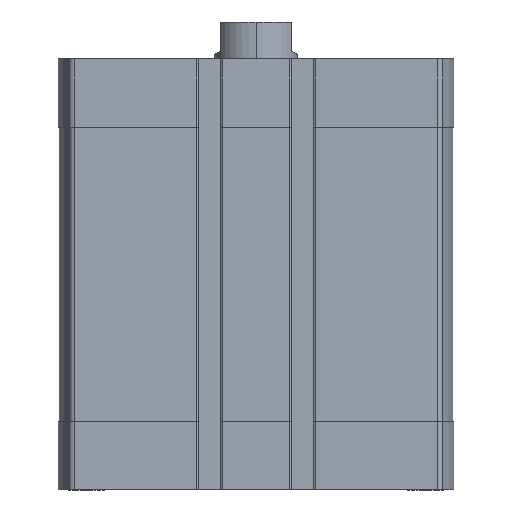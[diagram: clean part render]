
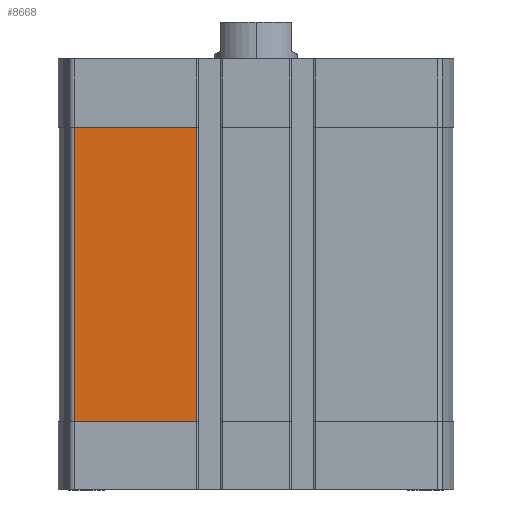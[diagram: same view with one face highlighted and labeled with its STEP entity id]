
A CAD part, left-side view. The second image highlights one B-rep face of the part: STEP entity #8668.
In plain terms, the highlighted planar face has unit normal (-1, 0, 0).
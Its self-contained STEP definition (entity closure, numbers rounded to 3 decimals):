
#761 = ORIENTED_EDGE ( 'NONE', *, *, #13371, .T. ) ;
#1130 = CARTESIAN_POINT ( 'NONE',  ( -47.5, 43.743, -87.5 ) ) ;
#1746 = CARTESIAN_POINT ( 'NONE',  ( -47.5, 14.3, -16.5 ) ) ;
#2211 = CARTESIAN_POINT ( 'NONE',  ( -47.5, 14.3, -87.5 ) ) ;
#2340 = DIRECTION ( 'NONE',  ( 0., 0., 1. ) ) ;
#2374 = LINE ( 'NONE', #4819, #5167 ) ;
#2655 = DIRECTION ( 'NONE',  ( 0., 1., 0. ) ) ;
#2865 = EDGE_CURVE ( 'NONE', #9663, #5471, #2374, .T. ) ;
#3382 = VERTEX_POINT ( 'NONE', #1746 ) ;
#3492 = CARTESIAN_POINT ( 'NONE',  ( -47.5, 43.743, -87.5 ) ) ;
#3824 = ORIENTED_EDGE ( 'NONE', *, *, #11261, .T. ) ;
#4819 = CARTESIAN_POINT ( 'NONE',  ( -47.5, 43.743, -87.5 ) ) ;
#5029 = LINE ( 'NONE', #3492, #10550 ) ;
#5167 = VECTOR ( 'NONE', #13097, 1000. ) ;
#5324 = VECTOR ( 'NONE', #2655, 1000. ) ;
#5448 = DIRECTION ( 'NONE',  ( 0., 0., 1. ) ) ;
#5471 = VERTEX_POINT ( 'NONE', #2211 ) ;
#6515 = FACE_OUTER_BOUND ( 'NONE', #10791, .T. ) ;
#8346 = EDGE_CURVE ( 'NONE', #11553, #9663, #5029, .T. ) ;
#8401 = CARTESIAN_POINT ( 'NONE',  ( -47.5, 43.743, -16.5 ) ) ;
#8668 = ADVANCED_FACE ( 'NONE', ( #6515 ), #15306, .T. ) ;
#8830 = LINE ( 'NONE', #9684, #5324 ) ;
#9427 = DIRECTION ( 'NONE',  ( -1., 0., 0. ) ) ;
#9663 = VERTEX_POINT ( 'NONE', #14972 ) ;
#9684 = CARTESIAN_POINT ( 'NONE',  ( -47.5, 0., -16.5 ) ) ;
#10117 = CARTESIAN_POINT ( 'NONE',  ( -47.5, 14.3, -87.5 ) ) ;
#10121 = AXIS2_PLACEMENT_3D ( 'NONE', #1130, #9427, #2340 ) ;
#10464 = VECTOR ( 'NONE', #5448, 1000. ) ;
#10550 = VECTOR ( 'NONE', #12366, 1000. ) ;
#10791 = EDGE_LOOP ( 'NONE', ( #14035, #3824, #761, #15238 ) ) ;
#10823 = LINE ( 'NONE', #10117, #10464 ) ;
#11261 = EDGE_CURVE ( 'NONE', #5471, #3382, #10823, .T. ) ;
#11553 = VERTEX_POINT ( 'NONE', #8401 ) ;
#12366 = DIRECTION ( 'NONE',  ( 0., 0., -1. ) ) ;
#13097 = DIRECTION ( 'NONE',  ( 0., -1., 0. ) ) ;
#13371 = EDGE_CURVE ( 'NONE', #3382, #11553, #8830, .T. ) ;
#14035 = ORIENTED_EDGE ( 'NONE', *, *, #2865, .T. ) ;
#14972 = CARTESIAN_POINT ( 'NONE',  ( -47.5, 43.743, -87.5 ) ) ;
#15238 = ORIENTED_EDGE ( 'NONE', *, *, #8346, .T. ) ;
#15306 = PLANE ( 'NONE',  #10121 ) ;
